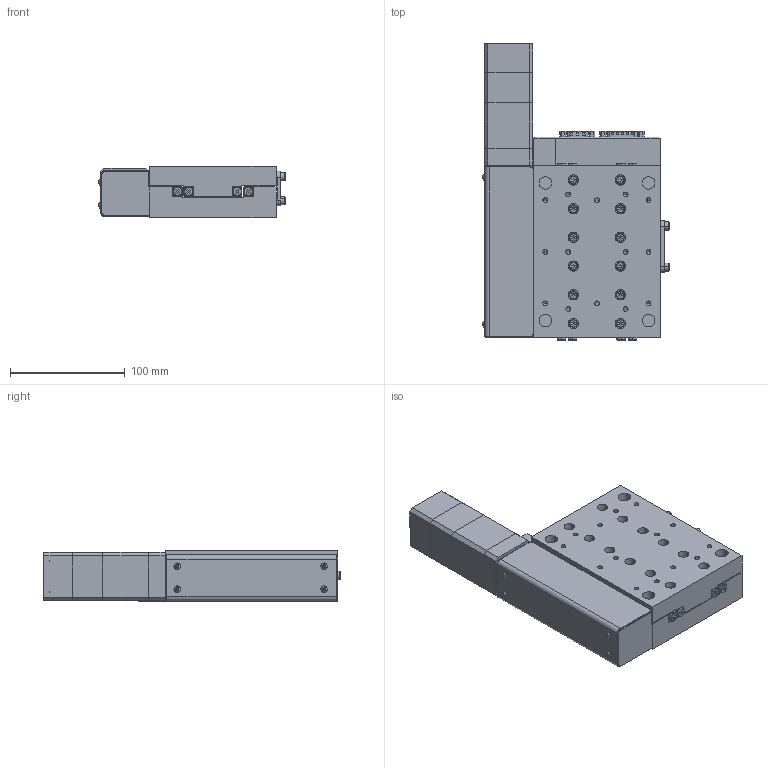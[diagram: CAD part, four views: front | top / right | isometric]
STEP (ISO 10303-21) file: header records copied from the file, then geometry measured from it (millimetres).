
FILE_DESCRIPTION (( 'STEP AP214' ), '1' );
FILE_NAME ('LNS-050-BS-M-M-S-D-EXPORT.STEP', '2025-06-27T18:08:59', ( 'lab' ), ( '' ), 'SwSTEP 2.0', 'SolidWorks 2018', '' );
FILE_SCHEMA (( 'AUTOMOTIVE_DESIGN' ));
Length unit declared in the file: millimetre
Products named in the file (11): LNS-050-BS-M-M-S-D-EXPORT; 1000013_file_export22; 1000010_file_export16; 1000007_file_export9; 1000001_file_export0; 1000014_file_export23; 1000008_file_export10; 1000011_file_export14; 1000016_file_export20; 1000012_file_export17; 1000015_file_export21
Assembly tree (16 placements, depth 2):
  LNS-050-BS-M-M-S-D-EXPORT
    1000001_file_export0
    1000007_file_export9
    1000008_file_export10
    1000010_file_export16  x4
    1000011_file_export14
    1000012_file_export17
    1000013_file_export22  x4
    1000014_file_export23
    1000015_file_export21
    1000016_file_export20
Bounding box: 162.5 x 258.25 x 45 mm (x, y, z)
Volume: 1195071.8 mm3; surface area: 235746.6 mm2
Topology: 72 solids, 72 shells, 1740 faces, 3940 edges, 2383 vertices
Faces by surface type: plane 1076, cylinder 326, bspline 170, cone 160, torus 8
Entity records: 55034 total; most frequent: CARTESIAN_POINT 13701, DIRECTION 7164, ORIENTED_EDGE 7120, EDGE_CURVE 3560, AXIS2_PLACEMENT_3D 2409, VECTOR 2346, LINE 2346, VERTEX_POINT 2206
